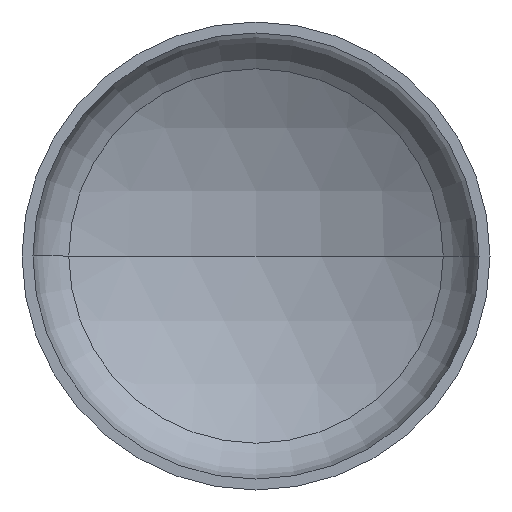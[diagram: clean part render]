
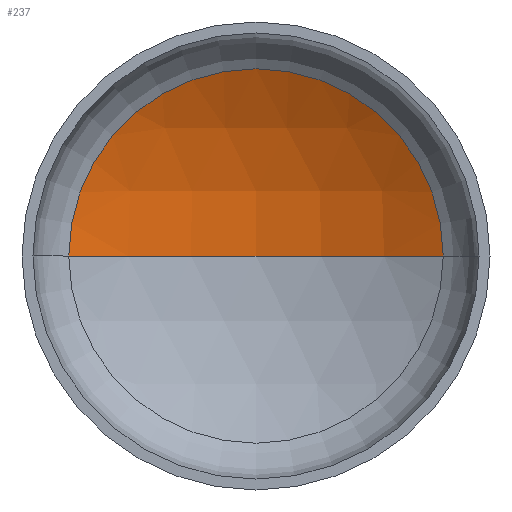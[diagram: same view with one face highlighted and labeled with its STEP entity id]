
A CAD part, front view. The second image highlights one B-rep face of the part: STEP entity #237.
In plain terms, the highlighted spherical face has radius 480 mm.
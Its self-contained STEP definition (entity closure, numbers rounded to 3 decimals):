
#1 = AXIS2_PLACEMENT_3D ( 'NONE', #176, #356, #399 ) ;
#27 = AXIS2_PLACEMENT_3D ( 'NONE', #181, #239, #200 ) ;
#55 = AXIS2_PLACEMENT_3D ( 'NONE', #262, #218, #163 ) ;
#86 = ORIENTED_EDGE ( 'NONE', *, *, #150, .T. ) ;
#93 = ORIENTED_EDGE ( 'NONE', *, *, #336, .T. ) ;
#97 = VERTEX_POINT ( 'NONE', #233 ) ;
#126 = VERTEX_POINT ( 'NONE', #196 ) ;
#128 = ORIENTED_EDGE ( 'NONE', *, *, #337, .F. ) ;
#150 = EDGE_CURVE ( 'NONE', #97, #126, #193, .T. ) ;
#162 = DIRECTION ( 'NONE',  ( 1., 0., 0. ) ) ;
#163 = DIRECTION ( 'NONE',  ( 1., 0., 0. ) ) ;
#174 = VERTEX_POINT ( 'NONE', #214 ) ;
#176 = CARTESIAN_POINT ( 'NONE',  ( 0., -291.018, 0. ) ) ;
#181 = CARTESIAN_POINT ( 'NONE',  ( 0., -291.018, 0. ) ) ;
#183 = FACE_OUTER_BOUND ( 'NONE', #296, .T. ) ;
#193 = CIRCLE ( 'NONE', #55, 240. ) ;
#196 = CARTESIAN_POINT ( 'NONE',  ( -240., 124.674, 0. ) ) ;
#200 = DIRECTION ( 'NONE',  ( -1., 0., 0. ) ) ;
#214 = CARTESIAN_POINT ( 'NONE',  ( 0., 188.982, 0. ) ) ;
#218 = DIRECTION ( 'NONE',  ( 0., -1., 0. ) ) ;
#233 = CARTESIAN_POINT ( 'NONE',  ( 240., 124.674, 0. ) ) ;
#235 = CIRCLE ( 'NONE', #1, 480. ) ;
#237 = ADVANCED_FACE ( 'NONE', ( #183 ), #253, .F. ) ;
#239 = DIRECTION ( 'NONE',  ( 0., 0., -1. ) ) ;
#253 = SPHERICAL_SURFACE ( 'NONE', #27, 480. ) ;
#262 = CARTESIAN_POINT ( 'NONE',  ( 0., 124.674, 0. ) ) ;
#287 = CIRCLE ( 'NONE', #342, 480. ) ;
#296 = EDGE_LOOP ( 'NONE', ( #128, #93, #86 ) ) ;
#336 = EDGE_CURVE ( 'NONE', #174, #97, #235, .T. ) ;
#337 = EDGE_CURVE ( 'NONE', #174, #126, #287, .T. ) ;
#338 = CARTESIAN_POINT ( 'NONE',  ( 0., -291.018, 0. ) ) ;
#342 = AXIS2_PLACEMENT_3D ( 'NONE', #338, #378, #162 ) ;
#356 = DIRECTION ( 'NONE',  ( 0., 0., -1. ) ) ;
#378 = DIRECTION ( 'NONE',  ( 0., 0., 1. ) ) ;
#399 = DIRECTION ( 'NONE',  ( -1., 0., 0. ) ) ;
